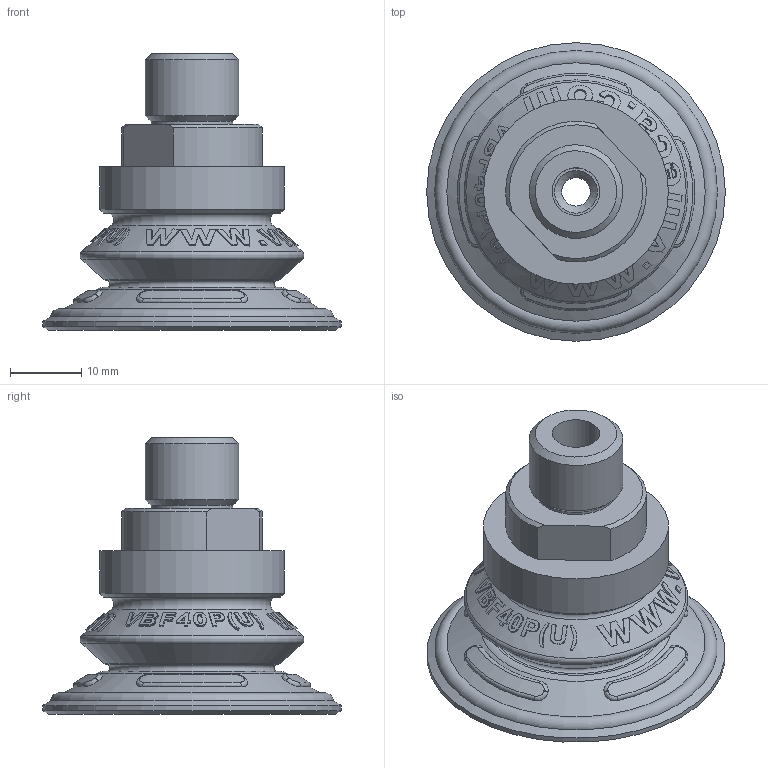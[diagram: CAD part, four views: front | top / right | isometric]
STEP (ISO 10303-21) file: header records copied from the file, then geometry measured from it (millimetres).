
FILE_DESCRIPTION( ( 'Unknown' ), '1' );
FILE_NAME( 'C:/Documents and Settings/茄惫春概平/My Documents/诀公/3d/VBF40/VBF40 PU 14M.stp', 'Unknown', ( 'Unknown' ), ( 'Unknown' ), 'PSStep 10.0', 'Unknown', ' ' );
FILE_SCHEMA( ( 'automotive_design' ) );
Length unit declared in the file: millimetre
Products named in the file (1): VBF40
Bounding box: 42 x 42 x 38.84 mm (x, y, z)
Volume: 11185.1 mm3; surface area: 8418.8 mm2
Topology: 1 solids, 2 shells, 457 faces, 1177 edges, 765 vertices
Faces by surface type: bspline 180, plane 150, cylinder 60, cone 49, torus 18
Full cylindrical faces by diameter (mm): 4 x1, 6 x1, 6.7 x1, 11.489 x1, 13.157 x1, 13.5 x1, 15.5 x1, 16.1 x1, 26 x1, 42 x1
Entity records: 26910 total; most frequent: CARTESIAN_POINT 13654, ORIENTED_EDGE 2264, DIRECTION 1420, EDGE_CURVE 1132, VERTEX_POINT 758, EDGE_LOOP 540, AXIS2_PLACEMENT_3D 518, B_SPLINE_CURVE_WITH_KNOTS 508
